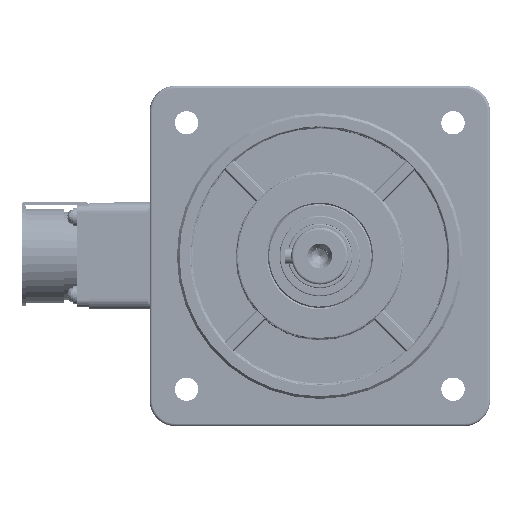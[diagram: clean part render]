
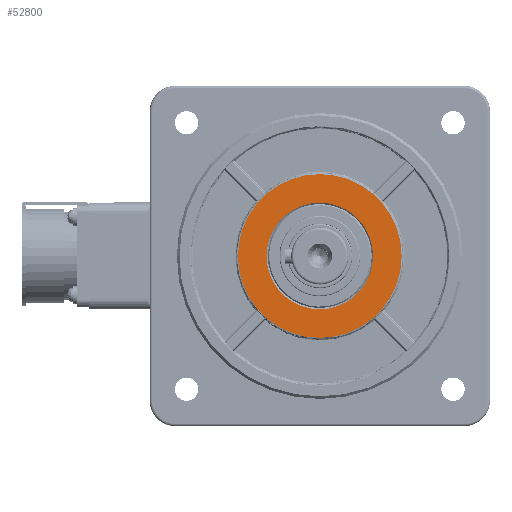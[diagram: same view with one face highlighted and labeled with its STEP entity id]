
A CAD part, left-side view. The second image highlights one B-rep face of the part: STEP entity #52800.
In plain terms, the highlighted planar face has unit normal (-1, 0, 0) as drawn and (1, 0, 0) by its records, which use the part's own axes.
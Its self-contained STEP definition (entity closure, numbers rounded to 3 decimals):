
#1515 = CARTESIAN_POINT ( 'NONE',  ( 30., 0., 0. ) ) ;
#5267 = CIRCLE ( 'NONE', #87965, 20.5 ) ;
#7417 = DIRECTION ( 'NONE',  ( 0., 0., 1. ) ) ;
#8553 = CARTESIAN_POINT ( 'NONE',  ( 30., 0., 0. ) ) ;
#8689 = AXIS2_PLACEMENT_3D ( 'NONE', #1515, #46674, #91804 ) ;
#9280 = CARTESIAN_POINT ( 'NONE',  ( 30., 0., 0. ) ) ;
#10770 = AXIS2_PLACEMENT_3D ( 'NONE', #113221, #11801, #56958 ) ;
#11801 = DIRECTION ( 'NONE',  ( -1., 0., 0. ) ) ;
#14253 = CARTESIAN_POINT ( 'NONE',  ( 30., 0., 31.5 ) ) ;
#18040 = ORIENTED_EDGE ( 'NONE', *, *, #24632, .T. ) ;
#18557 = PLANE ( 'NONE',  #67628 ) ;
#19980 = VERTEX_POINT ( 'NONE', #60712 ) ;
#24632 = EDGE_CURVE ( 'NONE', #19980, #87914, #5267, .T. ) ;
#24860 = VERTEX_POINT ( 'NONE', #14253 ) ;
#42717 = EDGE_CURVE ( 'NONE', #24860, #129405, #72541, .T. ) ;
#44472 = CIRCLE ( 'NONE', #63390, 31.5 ) ;
#44497 = CARTESIAN_POINT ( 'NONE',  ( 30., 0., -20.5 ) ) ;
#46674 = DIRECTION ( 'NONE',  ( 1., 0., 0. ) ) ;
#52800 = ADVANCED_FACE ( 'NONE', ( #74791, #119975 ), #18557, .F. ) ;
#53724 = DIRECTION ( 'NONE',  ( -1., 0., 0. ) ) ;
#54445 = DIRECTION ( 'NONE',  ( 1., 0., 0. ) ) ;
#56958 = DIRECTION ( 'NONE',  ( 0., 0., 1. ) ) ;
#59541 = EDGE_LOOP ( 'NONE', ( #79380, #68007 ) ) ;
#60712 = CARTESIAN_POINT ( 'NONE',  ( 30., 0., 20.5 ) ) ;
#63390 = AXIS2_PLACEMENT_3D ( 'NONE', #9280, #54445, #99562 ) ;
#63698 = CARTESIAN_POINT ( 'NONE',  ( 30., 20., 0. ) ) ;
#67628 = AXIS2_PLACEMENT_3D ( 'NONE', #63698, #108824, #7417 ) ;
#68007 = ORIENTED_EDGE ( 'NONE', *, *, #113730, .T. ) ;
#72541 = CIRCLE ( 'NONE', #8689, 31.5 ) ;
#74791 = FACE_BOUND ( 'NONE', #138784, .T. ) ;
#79380 = ORIENTED_EDGE ( 'NONE', *, *, #42717, .T. ) ;
#87914 = VERTEX_POINT ( 'NONE', #44497 ) ;
#87965 = AXIS2_PLACEMENT_3D ( 'NONE', #8553, #53724, #98839 ) ;
#91804 = DIRECTION ( 'NONE',  ( 0., 0., 1. ) ) ;
#98839 = DIRECTION ( 'NONE',  ( 0., 0., 1. ) ) ;
#99562 = DIRECTION ( 'NONE',  ( 0., 0., 1. ) ) ;
#101505 = CARTESIAN_POINT ( 'NONE',  ( 30., 0., -31.5 ) ) ;
#108824 = DIRECTION ( 'NONE',  ( -1., 0., 0. ) ) ;
#113221 = CARTESIAN_POINT ( 'NONE',  ( 30., 0., 0. ) ) ;
#113730 = EDGE_CURVE ( 'NONE', #129405, #24860, #44472, .T. ) ;
#119975 = FACE_OUTER_BOUND ( 'NONE', #59541, .T. ) ;
#125814 = ORIENTED_EDGE ( 'NONE', *, *, #130298, .T. ) ;
#129405 = VERTEX_POINT ( 'NONE', #101505 ) ;
#130298 = EDGE_CURVE ( 'NONE', #87914, #19980, #138488, .T. ) ;
#138488 = CIRCLE ( 'NONE', #10770, 20.5 ) ;
#138784 = EDGE_LOOP ( 'NONE', ( #125814, #18040 ) ) ;
